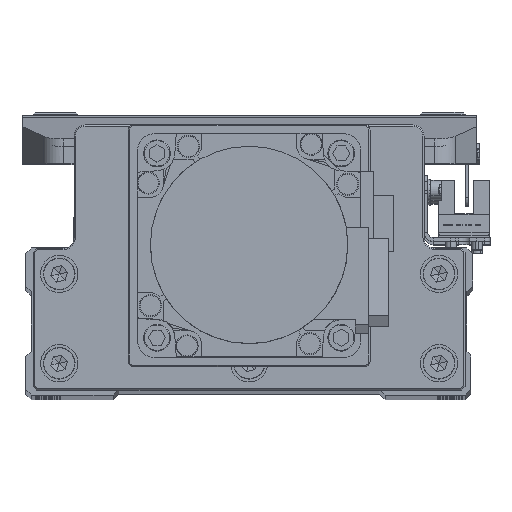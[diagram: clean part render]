
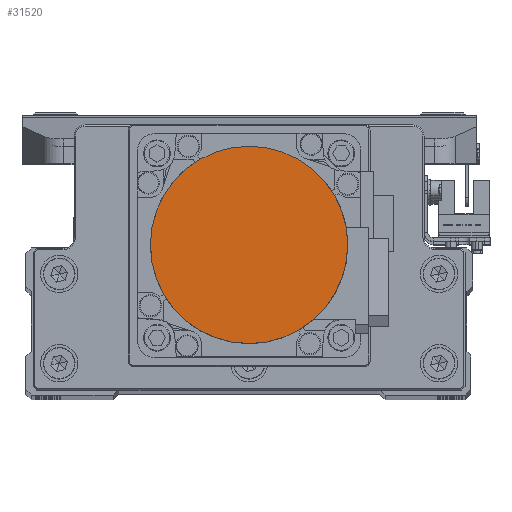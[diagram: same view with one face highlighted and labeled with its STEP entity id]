
A CAD part, top view. The second image highlights one B-rep face of the part: STEP entity #31520.
In plain terms, the highlighted planar face has unit normal (0, 0, 1) as drawn and (0, 0, -1) by its records, which use the part's own axes.
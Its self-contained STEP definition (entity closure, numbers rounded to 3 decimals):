
#2193 = VERTEX_POINT ( 'NONE', #36955 ) ;
#3320 = EDGE_CURVE ( 'NONE', #2193, #20515, #16506, .T. ) ;
#7199 = DIRECTION ( 'NONE',  ( 0., 0., 1. ) ) ;
#7204 = DIRECTION ( 'NONE',  ( 1., 0., 0. ) ) ;
#10497 = CARTESIAN_POINT ( 'NONE',  ( 26.5, 0., -109.7 ) ) ;
#10504 = PLANE ( 'NONE',  #16461 ) ;
#12465 = DIRECTION ( 'NONE',  ( -1., 0., 0. ) ) ;
#16461 = AXIS2_PLACEMENT_3D ( 'NONE', #23973, #37418, #7204 ) ;
#16481 = AXIS2_PLACEMENT_3D ( 'NONE', #29247, #42716, #12465 ) ;
#16506 = CIRCLE ( 'NONE', #16481, 26.5 ) ;
#17281 = CIRCLE ( 'NONE', #41946, 26.5 ) ;
#20515 = VERTEX_POINT ( 'NONE', #10497 ) ;
#20519 = EDGE_CURVE ( 'NONE', #20515, #2193, #17281, .T. ) ;
#20660 = DIRECTION ( 'NONE',  ( 1., 0., 0. ) ) ;
#23973 = CARTESIAN_POINT ( 'NONE',  ( 0., 0., -109.7 ) ) ;
#26201 = EDGE_LOOP ( 'NONE', ( #36555, #42924 ) ) ;
#29247 = CARTESIAN_POINT ( 'NONE',  ( 0., 0., -109.7 ) ) ;
#31520 = ADVANCED_FACE ( 'NONE', ( #40740 ), #10504, .F. ) ;
#36555 = ORIENTED_EDGE ( 'NONE', *, *, #3320, .F. ) ;
#36955 = CARTESIAN_POINT ( 'NONE',  ( -26.5, 0., -109.7 ) ) ;
#37412 = CARTESIAN_POINT ( 'NONE',  ( 0., 0., -109.7 ) ) ;
#37418 = DIRECTION ( 'NONE',  ( 0., 0., 1. ) ) ;
#40740 = FACE_OUTER_BOUND ( 'NONE', #26201, .T. ) ;
#41946 = AXIS2_PLACEMENT_3D ( 'NONE', #37412, #7199, #20660 ) ;
#42716 = DIRECTION ( 'NONE',  ( 0., 0., 1. ) ) ;
#42924 = ORIENTED_EDGE ( 'NONE', *, *, #20519, .F. ) ;
